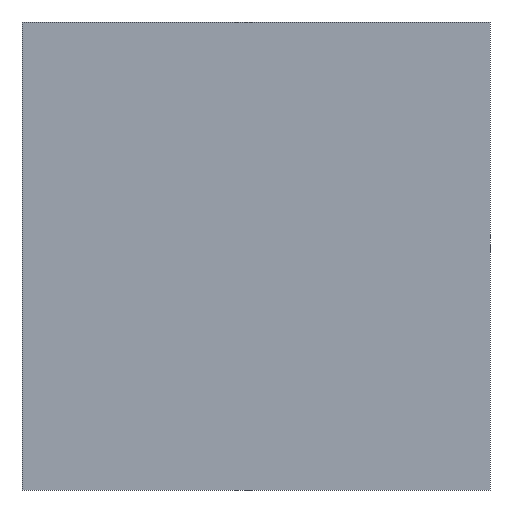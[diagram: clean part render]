
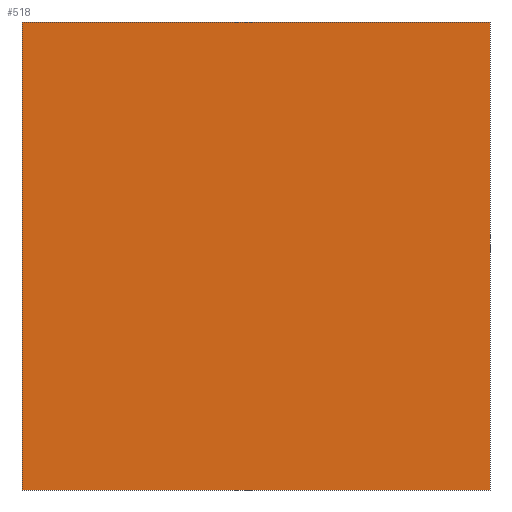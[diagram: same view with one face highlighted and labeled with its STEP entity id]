
A CAD part, front view. The second image highlights one B-rep face of the part: STEP entity #518.
In plain terms, the highlighted planar face has unit normal (0, -1, 0).
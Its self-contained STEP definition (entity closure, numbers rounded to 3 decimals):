
#2 = DIRECTION ( 'NONE',  ( 0., 0., 1. ) ) ;
#9 = DIRECTION ( 'NONE',  ( 0., 0., -1. ) ) ;
#37 = EDGE_CURVE ( 'NONE', #877, #772, #730, .T. ) ;
#159 = VECTOR ( 'NONE', #2, 1000. ) ;
#190 = CARTESIAN_POINT ( 'NONE',  ( -25., 0., -25. ) ) ;
#193 = EDGE_CURVE ( 'NONE', #772, #819, #677, .T. ) ;
#200 = PLANE ( 'NONE',  #993 ) ;
#211 = CARTESIAN_POINT ( 'NONE',  ( 0., 0., 0. ) ) ;
#243 = VECTOR ( 'NONE', #601, 1000. ) ;
#278 = CARTESIAN_POINT ( 'NONE',  ( 25., 0., -25. ) ) ;
#296 = ORIENTED_EDGE ( 'NONE', *, *, #396, .F. ) ;
#353 = EDGE_CURVE ( 'NONE', #819, #783, #743, .T. ) ;
#371 = CARTESIAN_POINT ( 'NONE',  ( 25., 0., 25. ) ) ;
#396 = EDGE_CURVE ( 'NONE', #783, #877, #917, .T. ) ;
#414 = DIRECTION ( 'NONE',  ( -1., 0., 0. ) ) ;
#420 = EDGE_LOOP ( 'NONE', ( #709, #483, #711, #296 ) ) ;
#431 = VECTOR ( 'NONE', #414, 1000. ) ;
#480 = CARTESIAN_POINT ( 'NONE',  ( -25., 0., 25. ) ) ;
#483 = ORIENTED_EDGE ( 'NONE', *, *, #193, .F. ) ;
#518 = ADVANCED_FACE ( 'NONE', ( #763 ), #200, .T. ) ;
#519 = DIRECTION ( 'NONE',  ( 0., 0., -1. ) ) ;
#531 = DIRECTION ( 'NONE',  ( 0., -1., 0. ) ) ;
#568 = CARTESIAN_POINT ( 'NONE',  ( 25., 0., 25. ) ) ;
#601 = DIRECTION ( 'NONE',  ( 1., 0., 0. ) ) ;
#648 = CARTESIAN_POINT ( 'NONE',  ( -25., 0., -25. ) ) ;
#677 = LINE ( 'NONE', #1013, #243 ) ;
#709 = ORIENTED_EDGE ( 'NONE', *, *, #353, .F. ) ;
#711 = ORIENTED_EDGE ( 'NONE', *, *, #37, .F. ) ;
#730 = LINE ( 'NONE', #480, #159 ) ;
#743 = LINE ( 'NONE', #568, #944 ) ;
#763 = FACE_OUTER_BOUND ( 'NONE', #420, .T. ) ;
#772 = VERTEX_POINT ( 'NONE', #1031 ) ;
#783 = VERTEX_POINT ( 'NONE', #278 ) ;
#819 = VERTEX_POINT ( 'NONE', #371 ) ;
#877 = VERTEX_POINT ( 'NONE', #648 ) ;
#917 = LINE ( 'NONE', #190, #431 ) ;
#944 = VECTOR ( 'NONE', #9, 1000. ) ;
#993 = AXIS2_PLACEMENT_3D ( 'NONE', #211, #531, #519 ) ;
#1013 = CARTESIAN_POINT ( 'NONE',  ( -25., 0., 25. ) ) ;
#1031 = CARTESIAN_POINT ( 'NONE',  ( -25., 0., 25. ) ) ;
